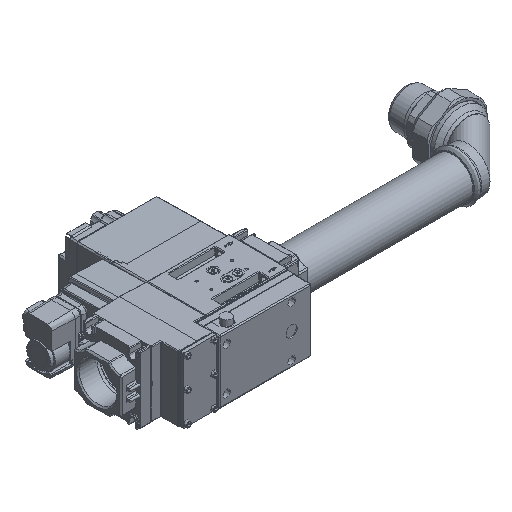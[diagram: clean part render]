
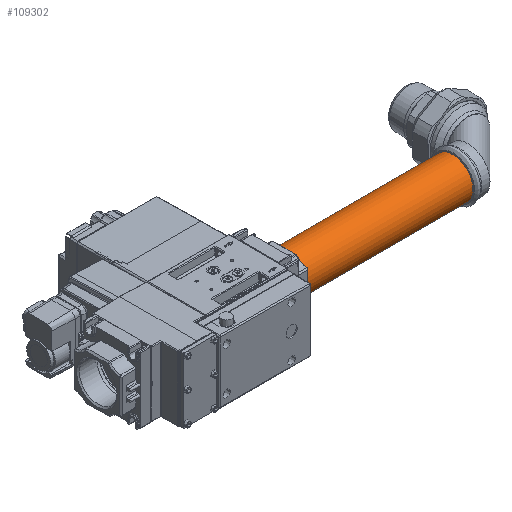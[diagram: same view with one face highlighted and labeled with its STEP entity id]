
A CAD part, isometric view. The second image highlights one B-rep face of the part: STEP entity #109302.
In plain terms, the highlighted cylindrical face has radius 30.15 mm (diameter 60.3 mm), a full revolution.
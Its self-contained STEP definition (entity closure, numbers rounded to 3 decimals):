
#7361 = VERTEX_POINT ( 'NONE', #99351 ) ;
#8875 = ORIENTED_EDGE ( 'NONE', *, *, #137735, .T. ) ;
#19268 = ORIENTED_EDGE ( 'NONE', *, *, #136896, .T. ) ;
#25676 = FACE_OUTER_BOUND ( 'NONE', #126219, .T. ) ;
#28018 = CARTESIAN_POINT ( 'NONE',  ( -1., 0., 0. ) ) ;
#36236 = CIRCLE ( 'NONE', #115694, 30.15 ) ;
#52898 = DIRECTION ( 'NONE',  ( -1., 0., 0. ) ) ;
#53072 = EDGE_LOOP ( 'NONE', ( #19268 ) ) ;
#66040 = DIRECTION ( 'NONE',  ( 1., 0., 0. ) ) ;
#68047 = AXIS2_PLACEMENT_3D ( 'NONE', #159664, #66040, #93551 ) ;
#70134 = VERTEX_POINT ( 'NONE', #95971 ) ;
#77822 = DIRECTION ( 'NONE',  ( 0., 0., -1. ) ) ;
#85252 = CYLINDRICAL_SURFACE ( 'NONE', #68047, 30.15 ) ;
#85658 = CARTESIAN_POINT ( 'NONE',  ( -275., 0., 0. ) ) ;
#89063 = DIRECTION ( 'NONE',  ( 1., 0., 0. ) ) ;
#93551 = DIRECTION ( 'NONE',  ( 0., 0., -1. ) ) ;
#95971 = CARTESIAN_POINT ( 'NONE',  ( -275., 0., -30.15 ) ) ;
#99351 = CARTESIAN_POINT ( 'NONE',  ( -1., 0., -30.15 ) ) ;
#103067 = FACE_OUTER_BOUND ( 'NONE', #53072, .T. ) ;
#109302 = ADVANCED_FACE ( 'NONE', ( #25676, #103067 ), #85252, .T. ) ;
#115694 = AXIS2_PLACEMENT_3D ( 'NONE', #28018, #52898, #77822 ) ;
#126219 = EDGE_LOOP ( 'NONE', ( #8875 ) ) ;
#132051 = CIRCLE ( 'NONE', #151231, 30.15 ) ;
#136896 = EDGE_CURVE ( 'NONE', #70134, #70134, #132051, .T. ) ;
#137735 = EDGE_CURVE ( 'NONE', #7361, #7361, #36236, .T. ) ;
#151231 = AXIS2_PLACEMENT_3D ( 'NONE', #85658, #89063, #153546 ) ;
#153546 = DIRECTION ( 'NONE',  ( 0., 0., -1. ) ) ;
#159664 = CARTESIAN_POINT ( 'NONE',  ( -275., 0., 0. ) ) ;
